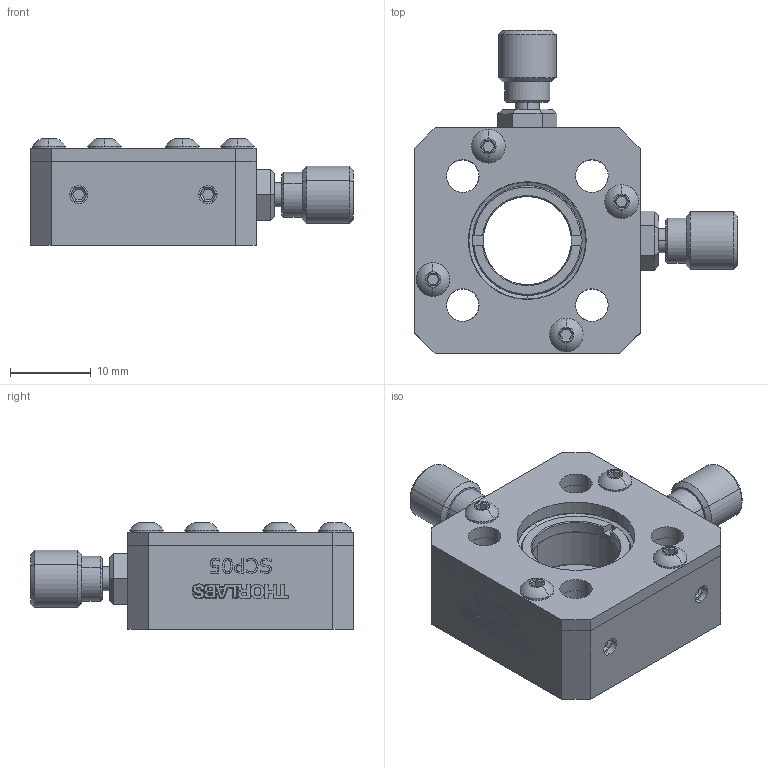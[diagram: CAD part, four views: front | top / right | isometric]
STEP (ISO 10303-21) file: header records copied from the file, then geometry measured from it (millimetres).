
FILE_DESCRIPTION (( 'STEP AP214' ), '1' );
FILE_NAME ('13497-E0W.STEP', '2016-06-01T16:54:59', ( '' ), ( '' ), 'SwSTEP 2.0', 'SolidWorks 2016', '' );
FILE_SCHEMA (( 'AUTOMOTIVE_DESIGN' ));
Length unit declared in the file: inch
Products named in the file (1): 13497-E0W
Bounding box: 40.01 x 40.01 x 13.23 mm (x, y, z)
Volume: 6865.7 mm3; surface area: 8343.9 mm2
Topology: 18 solids, 18 shells, 713 faces, 1733 edges, 1104 vertices
Faces by surface type: plane 368, cylinder 144, bspline 119, cone 74, sphere 8
Entity records: 32963 total; most frequent: CARTESIAN_POINT 7226, ORIENTED_EDGE 3450, DIRECTION 3039, EDGE_CURVE 1725, VERTEX_POINT 1104, LINE 1093, VECTOR 1093, AXIS2_PLACEMENT_3D 973
